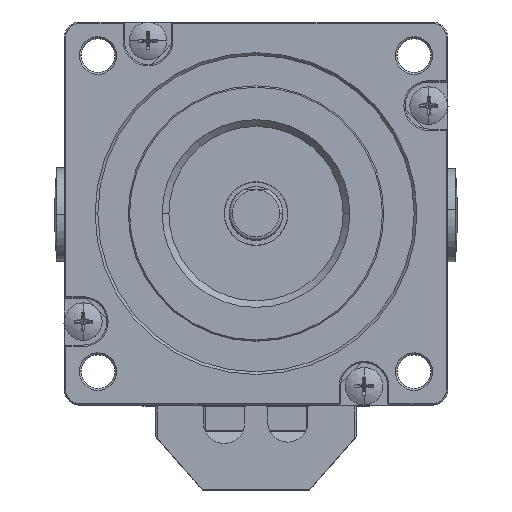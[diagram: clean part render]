
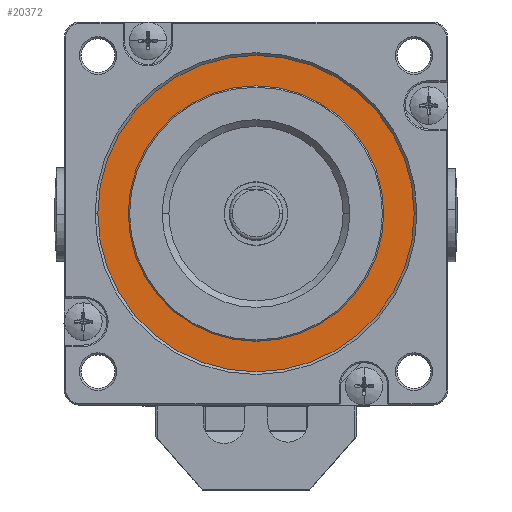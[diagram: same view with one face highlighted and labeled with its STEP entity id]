
A CAD part, top view. The second image highlights one B-rep face of the part: STEP entity #20372.
In plain terms, the highlighted planar face has unit normal (0, 0, 1).
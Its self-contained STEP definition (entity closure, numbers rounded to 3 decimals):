
#315 = AXIS2_PLACEMENT_3D ( 'NONE', #21687, #24624, #3356 ) ;
#630 = DIRECTION ( 'NONE',  ( 0., 0., 1. ) ) ;
#3356 = DIRECTION ( 'NONE',  ( 1., 0., 0. ) ) ;
#3951 = AXIS2_PLACEMENT_3D ( 'NONE', #34103, #27752, #34637 ) ;
#4103 = AXIS2_PLACEMENT_3D ( 'NONE', #18675, #21050, #21422 ) ;
#4278 = CARTESIAN_POINT ( 'NONE',  ( -19.05, 0., 10.6 ) ) ;
#5017 = EDGE_CURVE ( 'NONE', #26737, #26476, #7012, .T. ) ;
#5618 = FACE_BOUND ( 'NONE', #38142, .T. ) ;
#5994 = ORIENTED_EDGE ( 'NONE', *, *, #15360, .T. ) ;
#6200 = EDGE_CURVE ( 'NONE', #39218, #21931, #16375, .T. ) ;
#7012 = CIRCLE ( 'NONE', #36784, 23.6 ) ;
#7144 = CIRCLE ( 'NONE', #3951, 19.05 ) ;
#12820 = DIRECTION ( 'NONE',  ( 1., 0., 0. ) ) ;
#13018 = ORIENTED_EDGE ( 'NONE', *, *, #6200, .F. ) ;
#14165 = AXIS2_PLACEMENT_3D ( 'NONE', #16214, #630, #36996 ) ;
#15360 = EDGE_CURVE ( 'NONE', #26476, #26737, #22331, .T. ) ;
#16214 = CARTESIAN_POINT ( 'NONE',  ( 0., 0., 10.6 ) ) ;
#16375 = CIRCLE ( 'NONE', #4103, 19.05 ) ;
#18427 = CARTESIAN_POINT ( 'NONE',  ( 23.6, 0., 10.6 ) ) ;
#18675 = CARTESIAN_POINT ( 'NONE',  ( 0., 0., 10.6 ) ) ;
#18938 = EDGE_CURVE ( 'NONE', #21931, #39218, #7144, .T. ) ;
#19584 = CARTESIAN_POINT ( 'NONE',  ( -23.6, 0., 10.6 ) ) ;
#19847 = EDGE_LOOP ( 'NONE', ( #5994, #25447 ) ) ;
#20372 = ADVANCED_FACE ( 'NONE', ( #5618, #33022 ), #24945, .T. ) ;
#21050 = DIRECTION ( 'NONE',  ( 0., 0., 1. ) ) ;
#21422 = DIRECTION ( 'NONE',  ( 1., 0., 0. ) ) ;
#21687 = CARTESIAN_POINT ( 'NONE',  ( 0., 0., 10.6 ) ) ;
#21931 = VERTEX_POINT ( 'NONE', #23725 ) ;
#22331 = CIRCLE ( 'NONE', #315, 23.6 ) ;
#23725 = CARTESIAN_POINT ( 'NONE',  ( 19.05, 0., 10.6 ) ) ;
#24624 = DIRECTION ( 'NONE',  ( 0., 0., 1. ) ) ;
#24945 = PLANE ( 'NONE',  #14165 ) ;
#25447 = ORIENTED_EDGE ( 'NONE', *, *, #5017, .T. ) ;
#26476 = VERTEX_POINT ( 'NONE', #18427 ) ;
#26737 = VERTEX_POINT ( 'NONE', #19584 ) ;
#27752 = DIRECTION ( 'NONE',  ( 0., 0., 1. ) ) ;
#28011 = CARTESIAN_POINT ( 'NONE',  ( 0., 0., 10.6 ) ) ;
#29714 = ORIENTED_EDGE ( 'NONE', *, *, #18938, .F. ) ;
#33022 = FACE_OUTER_BOUND ( 'NONE', #19847, .T. ) ;
#34103 = CARTESIAN_POINT ( 'NONE',  ( 0., 0., 10.6 ) ) ;
#34227 = DIRECTION ( 'NONE',  ( 0., 0., 1. ) ) ;
#34637 = DIRECTION ( 'NONE',  ( 1., 0., 0. ) ) ;
#36784 = AXIS2_PLACEMENT_3D ( 'NONE', #28011, #34227, #12820 ) ;
#36996 = DIRECTION ( 'NONE',  ( 1., 0., 0. ) ) ;
#38142 = EDGE_LOOP ( 'NONE', ( #13018, #29714 ) ) ;
#39218 = VERTEX_POINT ( 'NONE', #4278 ) ;
